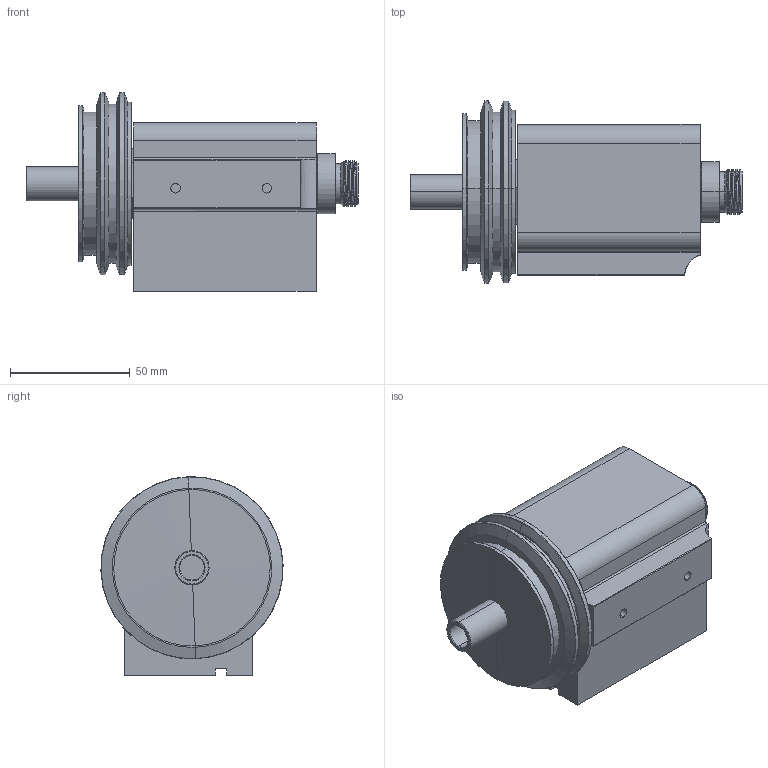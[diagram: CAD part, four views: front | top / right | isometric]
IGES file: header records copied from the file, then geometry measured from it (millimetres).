
Start section: Comment
Global section: file name: 65101 .igs; native system:  By Spatial Corp.; preprocessor: XPlus PS/IGES 3.0; author: Author; organization: Title; date: 20190124.093028; units: inch
Bounding box: 138.68 x 76.12 x 83.02 mm (x, y, z)
Surface area: 64507.2 mm2 (no closed solid volume)
Topology: 0 solids, 0 shells, 188 faces, 888 edges, 888 vertices
Faces by surface type: revolution 131, extrusion 47, bspline 10
